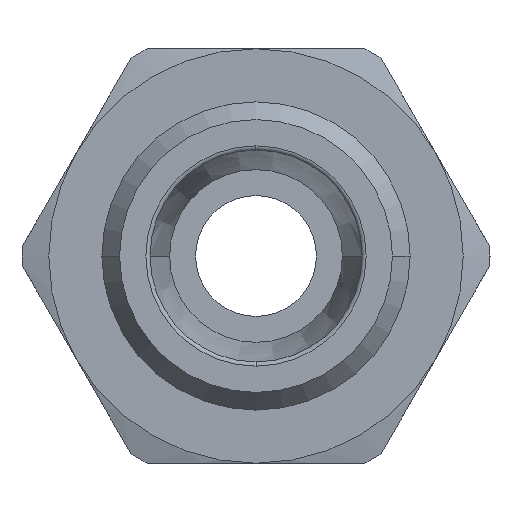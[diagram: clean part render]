
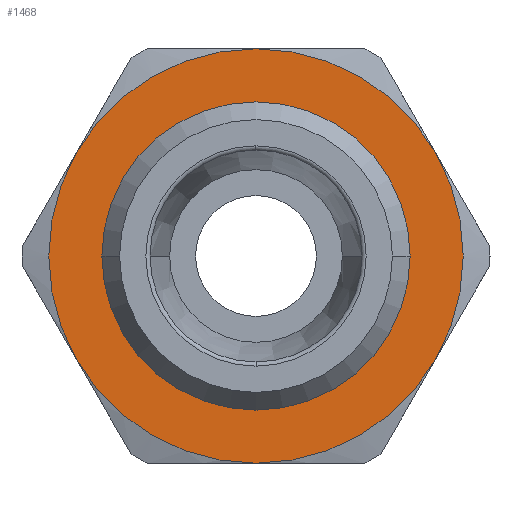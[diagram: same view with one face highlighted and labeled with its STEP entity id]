
A CAD part, left-side view. The second image highlights one B-rep face of the part: STEP entity #1468.
In plain terms, the highlighted planar face has unit normal (-1, 0, 0) as drawn and (0, 0, 1) by its records, which use the part's own axes.
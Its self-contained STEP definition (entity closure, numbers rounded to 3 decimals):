
#626=CARTESIAN_POINT('',(-8.8,0.,5.0));
#627=VERTEX_POINT('',#626);
#653=CARTESIAN_POINT('',(8.8,0.,5.0));
#654=VERTEX_POINT('',#653);
#662=CARTESIAN_POINT('',(0.,0.,5.0));
#663=DIRECTION('',(0.0,0.0,1.0));
#664=DIRECTION('',(-1.0,0.0,0.0));
#665=AXIS2_PLACEMENT_3D('',#662,#663,#664);
#666=CIRCLE('',#665,8.8);
#667=EDGE_CURVE('',#654,#627,#666,.T.);
#1348=CARTESIAN_POINT('',(0.,-8.8,5.));
#1349=VERTEX_POINT('',#1348);
#1350=CARTESIAN_POINT('',(0.,0.,5.0));
#1351=DIRECTION('',(0.0,0.0,1.0));
#1352=DIRECTION('',(-1.0,0.0,0.0));
#1353=AXIS2_PLACEMENT_3D('',#1350,#1351,#1352);
#1354=CIRCLE('',#1353,8.8);
#1355=EDGE_CURVE('',#627,#1349,#1354,.T.);
#1357=CARTESIAN_POINT('',(0.,0.,5.0));
#1358=DIRECTION('',(0.0,0.0,1.0));
#1359=DIRECTION('',(-1.0,0.0,0.0));
#1360=AXIS2_PLACEMENT_3D('',#1357,#1358,#1359);
#1361=CIRCLE('',#1360,8.8);
#1362=EDGE_CURVE('',#1349,#654,#1361,.T.);
#1402=CARTESIAN_POINT('',(0.,0.,5.0));
#1403=DIRECTION('',(0.0,0.0,1.0));
#1404=DIRECTION('',(1.0,0.0,0.0));
#1405=AXIS2_PLACEMENT_3D('',#1402,#1403,#1404);
#1406=PLANE('',#1405);
#1407=CARTESIAN_POINT('',(6.,-10.392,5.));
#1408=VERTEX_POINT('',#1407);
#1409=CARTESIAN_POINT('',(12.0,0.0,5.));
#1410=VERTEX_POINT('',#1409);
#1411=CARTESIAN_POINT('',(0.,0.0,5.0));
#1412=DIRECTION('',(0.0,0.0,1.0));
#1413=DIRECTION('',(1.0,0.0,0.0));
#1414=AXIS2_PLACEMENT_3D('',#1411,#1412,#1413);
#1415=CIRCLE('',#1414,12.);
#1416=EDGE_CURVE('',#1408,#1410,#1415,.T.);
#1417=ORIENTED_EDGE('',*,*,#1416,.T.);
#1418=CARTESIAN_POINT('',(6.,10.392,5.));
#1419=VERTEX_POINT('',#1418);
#1420=CARTESIAN_POINT('',(0.,0.0,5.0));
#1421=DIRECTION('',(0.0,0.0,1.0));
#1422=DIRECTION('',(1.0,0.0,0.0));
#1423=AXIS2_PLACEMENT_3D('',#1420,#1421,#1422);
#1424=CIRCLE('',#1423,12.);
#1425=EDGE_CURVE('',#1410,#1419,#1424,.T.);
#1426=ORIENTED_EDGE('',*,*,#1425,.T.);
#1427=CARTESIAN_POINT('',(-6.,10.392,5.));
#1428=VERTEX_POINT('',#1427);
#1429=CARTESIAN_POINT('',(0.,0.0,5.0));
#1430=DIRECTION('',(0.0,0.0,1.0));
#1431=DIRECTION('',(1.0,0.0,0.0));
#1432=AXIS2_PLACEMENT_3D('',#1429,#1430,#1431);
#1433=CIRCLE('',#1432,12.);
#1434=EDGE_CURVE('',#1419,#1428,#1433,.T.);
#1435=ORIENTED_EDGE('',*,*,#1434,.T.);
#1436=CARTESIAN_POINT('',(-12.0,0.,5.));
#1437=VERTEX_POINT('',#1436);
#1438=CARTESIAN_POINT('',(0.,0.0,5.0));
#1439=DIRECTION('',(0.0,0.0,1.0));
#1440=DIRECTION('',(1.0,0.0,0.0));
#1441=AXIS2_PLACEMENT_3D('',#1438,#1439,#1440);
#1442=CIRCLE('',#1441,12.);
#1443=EDGE_CURVE('',#1428,#1437,#1442,.T.);
#1444=ORIENTED_EDGE('',*,*,#1443,.T.);
#1445=CARTESIAN_POINT('',(-6.,-10.392,5.));
#1446=VERTEX_POINT('',#1445);
#1447=CARTESIAN_POINT('',(0.,0.0,5.0));
#1448=DIRECTION('',(0.0,0.0,1.0));
#1449=DIRECTION('',(1.0,0.0,0.0));
#1450=AXIS2_PLACEMENT_3D('',#1447,#1448,#1449);
#1451=CIRCLE('',#1450,12.);
#1452=EDGE_CURVE('',#1437,#1446,#1451,.T.);
#1453=ORIENTED_EDGE('',*,*,#1452,.T.);
#1454=CARTESIAN_POINT('',(0.,0.0,5.0));
#1455=DIRECTION('',(0.0,0.0,1.0));
#1456=DIRECTION('',(1.0,0.0,0.0));
#1457=AXIS2_PLACEMENT_3D('',#1454,#1455,#1456);
#1458=CIRCLE('',#1457,12.);
#1459=EDGE_CURVE('',#1446,#1408,#1458,.T.);
#1460=ORIENTED_EDGE('',*,*,#1459,.T.);
#1461=EDGE_LOOP('',(#1417,#1426,#1435,#1444,#1453,#1460));
#1462=FACE_OUTER_BOUND('',#1461,.T.);
#1463=ORIENTED_EDGE('',*,*,#1362,.F.);
#1464=ORIENTED_EDGE('',*,*,#1355,.F.);
#1465=ORIENTED_EDGE('',*,*,#667,.F.);
#1466=EDGE_LOOP('',(#1463,#1464,#1465));
#1467=FACE_BOUND('',#1466,.T.);
#1468=ADVANCED_FACE('',(#1462,#1467),#1406,.T.);
